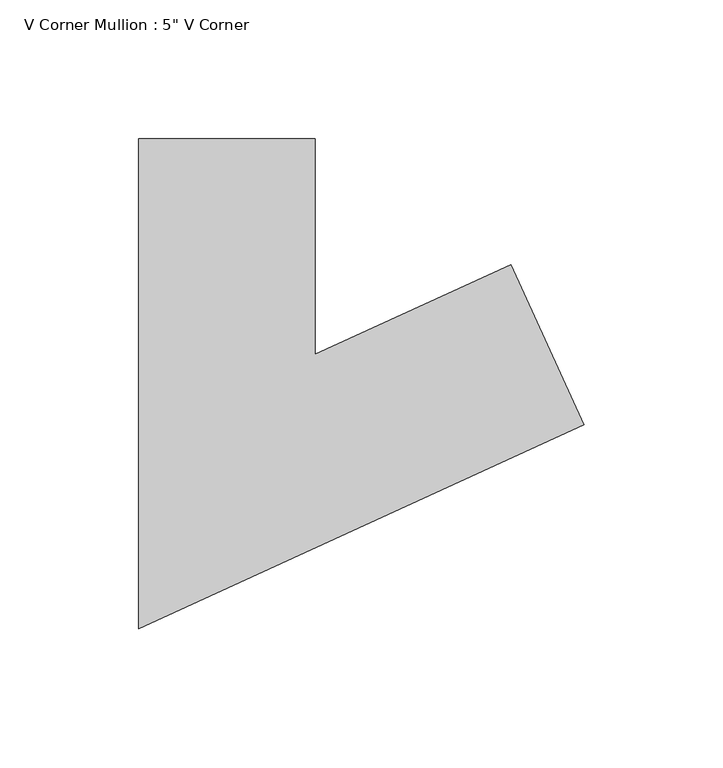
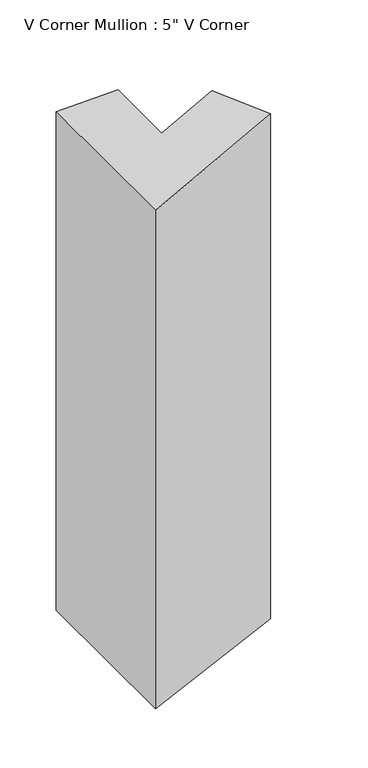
"""IFC4 building model written with IfcOpenShell, lengths in millimetres: member geometry."""

from ifc_helpers import new_model, si_unit, origin, place, context, project, spatial, faceted_brep, source, transform, mapped, element, save


def member_0263207b(model_context):
    return source(origin(), model_context, "Body", "Brep", [
        faceted_brep([(61.49523, 18.2208415, 1.4614397), (87.9205542, -39.5195451, 2.0894399), (87.9205542, -39.5195451, -545.715426), (61.49523, 18.2208415, -545.1868776), (-9.0228811, -14.0523047, -0.2144296), (-9.0228811, -14.0523047, -543.7764034), (-9.0228811, 63.5, -0.2144296), (-9.0228811, 63.5, -543.7764034), (-72.5228811, 63.5, -1.7235128), (-72.5228811, 63.5, -542.5063026), (-72.5228811, -112.9476953, -1.7235128), (-72.5228811, -112.9476953, -542.5063026)], [[[0, 1, 2, 3]], [[4, 0, 3, 5]], [[6, 4, 5, 7]], [[8, 6, 7, 9]], [[10, 8, 9, 11]], [[1, 10, 11, 2]], [[1, 0, 4, 6, 8, 10]], [[2, 11, 9, 7, 5, 3]]]),
    ])


if __name__ == "__main__":
    model = new_model("IFC4")
    model_context = context("Model", 3, world=origin())
    ifc_project = project(units=[si_unit("LENGTHUNIT", "METRE", prefix="MILLI")], contexts=[model_context])
    site = spatial("IfcSite", under=ifc_project)
    building = spatial("IfcBuilding", under=site)
    placement = place(None, origin())
    member_shape = member_0263207b(model_context)
    element("IfcMember", 1, ObjectType="V Corner Mullion : 5\" V Corner", at=placement, inside=building, context=model_context, shape_type="MappedRepresentation", body=[
        mapped(member_shape, transform((0.0, 0.0, 0.0), x_axis=(1.0, 0.0, 0.0), y_axis=(0.0, 1.0, 0.0), z_axis=(0.0, 0.0, 1.0))),
    ])
    save(model, "model.ifc")
